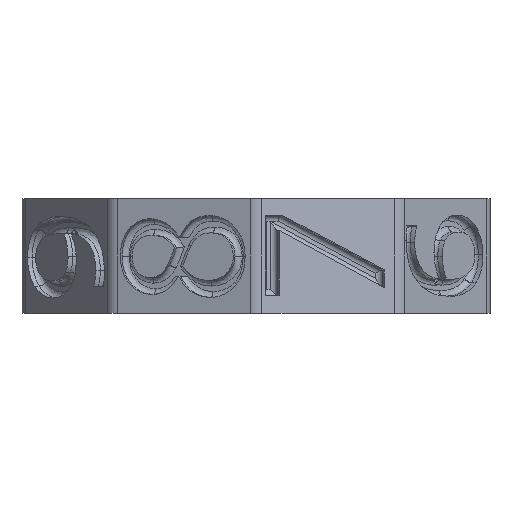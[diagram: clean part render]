
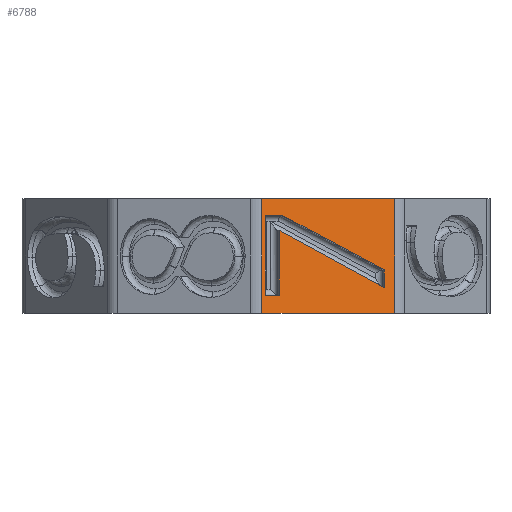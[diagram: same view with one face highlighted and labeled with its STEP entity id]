
A CAD part, front view. The second image highlights one B-rep face of the part: STEP entity #6788.
In plain terms, the highlighted planar face has unit normal (0.309, -0.951, 0).
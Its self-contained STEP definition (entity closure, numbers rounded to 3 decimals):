
#24=FACE_BOUND('',#1648,.T.);
#234=PLANE('',#7207);
#1227=FACE_OUTER_BOUND('',#1647,.T.);
#1647=EDGE_LOOP('',(#5837,#5838,#5839,#5840));
#1648=EDGE_LOOP('',(#5841,#5842,#5843,#5844,#5845,#5846,#5847));
#2033=LINE('',#13682,#2458);
#2036=LINE('',#13687,#2461);
#2038=LINE('',#13691,#2463);
#2040=LINE('',#13695,#2465);
#2086=LINE('',#17467,#2511);
#2139=LINE('',#17723,#2564);
#2140=LINE('',#17727,#2565);
#2141=LINE('',#17728,#2566);
#2142=LINE('',#17730,#2567);
#2143=LINE('',#17732,#2568);
#2144=LINE('',#17733,#2569);
#2458=VECTOR('',#7848,10.);
#2461=VECTOR('',#7853,10.);
#2463=VECTOR('',#7857,10.);
#2465=VECTOR('',#7861,10.);
#2511=VECTOR('',#8039,10.);
#2564=VECTOR('',#8164,10.);
#2565=VECTOR('',#8169,10.);
#2566=VECTOR('',#8170,10.);
#2567=VECTOR('',#8171,10.);
#2568=VECTOR('',#8172,10.);
#2569=VECTOR('',#8173,10.);
#3002=VERTEX_POINT('',#13679);
#3003=VERTEX_POINT('',#13681);
#3004=VERTEX_POINT('',#13685);
#3005=VERTEX_POINT('',#13689);
#3006=VERTEX_POINT('',#13693);
#3175=VERTEX_POINT('',#17464);
#3176=VERTEX_POINT('',#17466);
#3255=VERTEX_POINT('',#17722);
#3256=VERTEX_POINT('',#17726);
#3257=VERTEX_POINT('',#17729);
#3258=VERTEX_POINT('',#17731);
#3827=EDGE_CURVE('',#3003,#3002,#2033,.T.);
#3830=EDGE_CURVE('',#3002,#3004,#2036,.T.);
#3832=EDGE_CURVE('',#3004,#3005,#2038,.T.);
#3834=EDGE_CURVE('',#3005,#3006,#2040,.T.);
#4088=EDGE_CURVE('',#3175,#3176,#2086,.T.);
#4186=EDGE_CURVE('',#3176,#3255,#2139,.T.);
#4188=EDGE_CURVE('',#3256,#3175,#2140,.T.);
#4189=EDGE_CURVE('',#3256,#3255,#2141,.T.);
#4190=EDGE_CURVE('',#3006,#3257,#2142,.T.);
#4191=EDGE_CURVE('',#3257,#3258,#2143,.T.);
#4192=EDGE_CURVE('',#3258,#3003,#2144,.T.);
#5837=ORIENTED_EDGE('',*,*,#4186,.F.);
#5838=ORIENTED_EDGE('',*,*,#4088,.F.);
#5839=ORIENTED_EDGE('',*,*,#4188,.F.);
#5840=ORIENTED_EDGE('',*,*,#4189,.T.);
#5841=ORIENTED_EDGE('',*,*,#4190,.T.);
#5842=ORIENTED_EDGE('',*,*,#4191,.T.);
#5843=ORIENTED_EDGE('',*,*,#4192,.T.);
#5844=ORIENTED_EDGE('',*,*,#3827,.T.);
#5845=ORIENTED_EDGE('',*,*,#3830,.T.);
#5846=ORIENTED_EDGE('',*,*,#3832,.T.);
#5847=ORIENTED_EDGE('',*,*,#3834,.T.);
#6788=ADVANCED_FACE('',(#1227,#24),#234,.T.);
#7207=AXIS2_PLACEMENT_3D('',#17725,#8167,#8168);
#7848=DIRECTION('',(-0.845,-0.274,0.46));
#7853=DIRECTION('',(0.,0.,-1.));
#7857=DIRECTION('',(-0.951,-0.309,0.));
#7861=DIRECTION('',(0.,0.,1.));
#8039=DIRECTION('',(0.951,0.309,0.));
#8164=DIRECTION('',(0.,0.,-1.));
#8167=DIRECTION('center_axis',(0.309,-0.951,0.));
#8168=DIRECTION('ref_axis',(0.951,0.309,0.));
#8169=DIRECTION('',(0.,0.,1.));
#8170=DIRECTION('',(0.951,0.309,0.));
#8171=DIRECTION('',(0.951,0.309,0.));
#8172=DIRECTION('',(0.848,0.275,-0.454));
#8173=DIRECTION('',(0.,0.,-1.));
#13679=CARTESIAN_POINT('',(6.065,-62.751,21.728));
#13681=CARTESIAN_POINT('',(33.763,-53.751,6.645));
#13682=CARTESIAN_POINT('',(21.742,-57.657,13.191));
#13685=CARTESIAN_POINT('',(6.065,-62.751,4.693));
#13687=CARTESIAN_POINT('',(6.065,-62.751,10.864));
#13689=CARTESIAN_POINT('',(2.378,-63.949,4.693));
#13691=CARTESIAN_POINT('',(3.033,-63.736,4.693));
#13693=CARTESIAN_POINT('',(2.378,-63.949,25.632));
#13695=CARTESIAN_POINT('',(2.378,-63.949,2.346));
#17464=CARTESIAN_POINT('',(1.545,-64.219,30.));
#17466=CARTESIAN_POINT('',(36.497,-52.863,30.));
#17467=CARTESIAN_POINT('',(0.,-64.721,30.));
#17722=CARTESIAN_POINT('',(36.497,-52.863,0.));
#17723=CARTESIAN_POINT('',(36.497,-52.863,0.));
#17725=CARTESIAN_POINT('Origin',(0.,-64.721,
0.));
#17726=CARTESIAN_POINT('',(1.545,-64.219,0.));
#17727=CARTESIAN_POINT('',(1.545,-64.219,0.));
#17728=CARTESIAN_POINT('',(0.,-64.721,0.));
#17729=CARTESIAN_POINT('',(7.083,-62.42,25.632));
#17730=CARTESIAN_POINT('',(1.189,-64.335,25.632));
#17731=CARTESIAN_POINT('',(33.763,-53.751,11.352));
#17732=CARTESIAN_POINT('',(9.198,-61.733,24.5));
#17733=CARTESIAN_POINT('',(33.763,-53.751,5.676));
